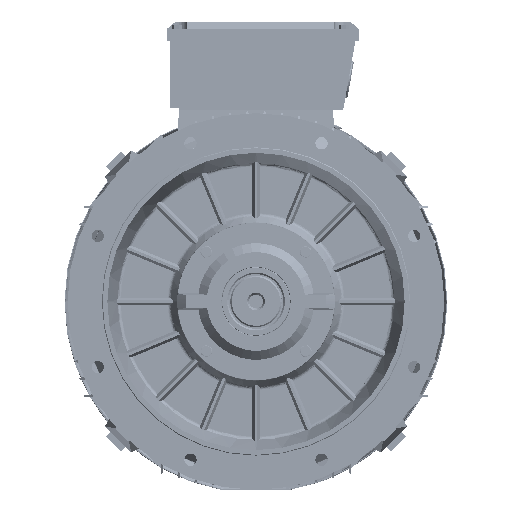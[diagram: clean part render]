
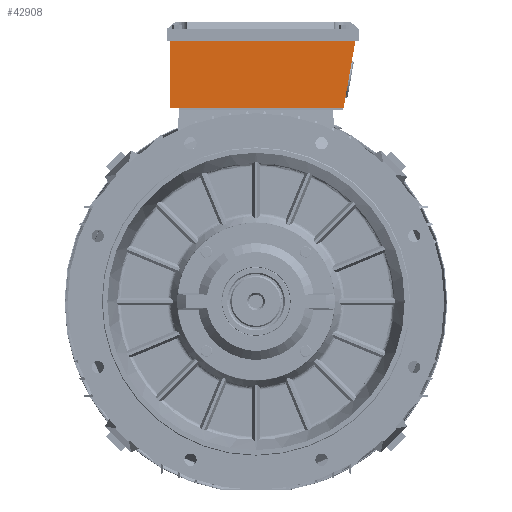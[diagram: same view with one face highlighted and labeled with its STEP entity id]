
A CAD part, left-side view. The second image highlights one B-rep face of the part: STEP entity #42908.
In plain terms, the highlighted planar face has unit normal (-1, 0, 0) as drawn and (0, 0, 1) by its records, which use the part's own axes.
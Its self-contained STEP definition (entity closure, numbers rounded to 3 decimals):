
#41119 = EDGE_CURVE ( 'NONE', #42945, #42923, #260806, .T. ) ;
#42189 = VERTEX_POINT ( 'NONE', #262864 ) ;
#42196 = VERTEX_POINT ( 'NONE', #262861 ) ;
#42267 = EDGE_CURVE ( 'NONE', #42196, #42189, #263081, .T. ) ;
#42908 = ADVANCED_FACE ( 'NONE', ( #264056 ), #264053, .T. ) ;
#42913 = EDGE_LOOP ( 'NONE', ( #42919, #42929, #42935, #42950 ) ) ;
#42919 = ORIENTED_EDGE ( 'NONE', *, *, #42922, .T. ) ;
#42922 = EDGE_CURVE ( 'NONE', #42923, #42196, #264195, .T. ) ;
#42923 = VERTEX_POINT ( 'NONE', #264188 ) ;
#42929 = ORIENTED_EDGE ( 'NONE', *, *, #42267, .T. ) ;
#42935 = ORIENTED_EDGE ( 'NONE', *, *, #42944, .T. ) ;
#42944 = EDGE_CURVE ( 'NONE', #42189, #42945, #264171, .T. ) ;
#42945 = VERTEX_POINT ( 'NONE', #264160 ) ;
#42950 = ORIENTED_EDGE ( 'NONE', *, *, #41119, .T. ) ;
#260803 = DIRECTION ( 'NONE',  ( 0., -1., 0. ) ) ;
#260804 = VECTOR ( 'NONE', #260803, 1000. ) ;
#260805 = CARTESIAN_POINT ( 'NONE',  ( 0., 3., 118.5 ) ) ;
#260806 = LINE ( 'NONE', #260805, #260804 ) ;
#262861 = CARTESIAN_POINT ( 'NONE',  ( 253.929, 3., 118.5 ) ) ;
#262864 = CARTESIAN_POINT ( 'NONE',  ( 271.033, 100., 118.5 ) ) ;
#263077 = DIRECTION ( 'NONE',  ( 0.174, 0.985, 0. ) ) ;
#263078 = VECTOR ( 'NONE', #263077, 1000. ) ;
#263079 = CARTESIAN_POINT ( 'NONE',  ( 253.4, 0., 118.5 ) ) ;
#263081 = LINE ( 'NONE', #263079, #263078 ) ;
#264041 = DIRECTION ( 'NONE',  ( 1., 0., 0. ) ) ;
#264043 = DIRECTION ( 'NONE',  ( 0., 0., 1. ) ) ;
#264046 = AXIS2_PLACEMENT_3D ( 'NONE', #264052, #264043, #264041 ) ;
#264052 = CARTESIAN_POINT ( 'NONE',  ( 13.5, 0., 118.5 ) ) ;
#264053 = PLANE ( 'NONE',  #264046 ) ;
#264056 = FACE_OUTER_BOUND ( 'NONE', #42913, .T. ) ;
#264160 = CARTESIAN_POINT ( 'NONE',  ( 0., 100., 118.5 ) ) ;
#264165 = DIRECTION ( 'NONE',  ( -1., 0., 0. ) ) ;
#264167 = VECTOR ( 'NONE', #264165, 1000. ) ;
#264170 = CARTESIAN_POINT ( 'NONE',  ( 0., 100., 118.5 ) ) ;
#264171 = LINE ( 'NONE', #264170, #264167 ) ;
#264188 = CARTESIAN_POINT ( 'NONE',  ( 0., 3., 118.5 ) ) ;
#264191 = DIRECTION ( 'NONE',  ( 1., 0., 0. ) ) ;
#264192 = VECTOR ( 'NONE', #264191, 1000. ) ;
#264193 = CARTESIAN_POINT ( 'NONE',  ( 0., 3., 118.5 ) ) ;
#264195 = LINE ( 'NONE', #264193, #264192 ) ;
